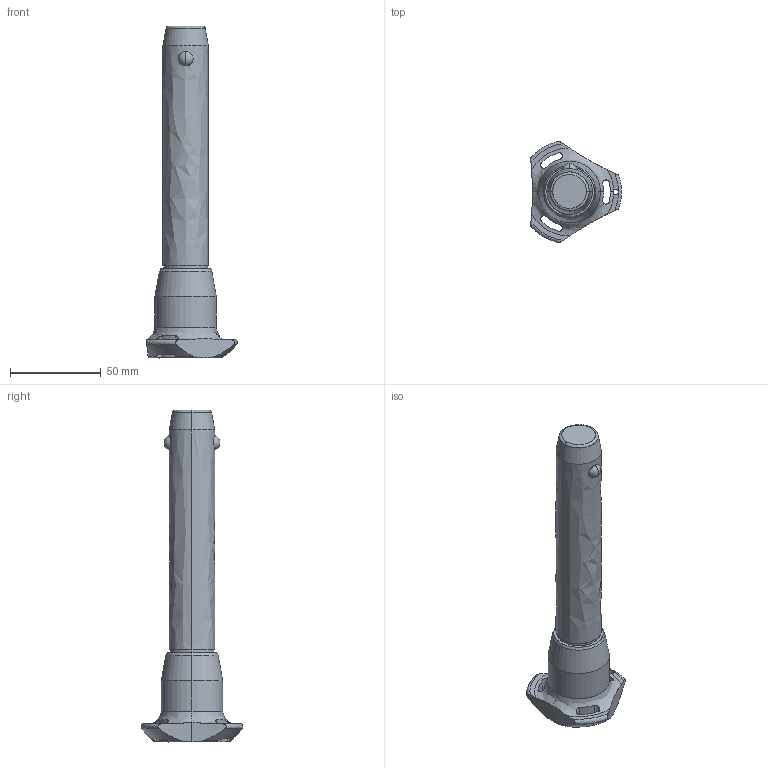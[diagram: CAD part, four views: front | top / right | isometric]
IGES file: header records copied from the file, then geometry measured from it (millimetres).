
Start section: SolidWorks IGES file using analytic representation for surfaces
Global section: file name: C:\Users\ianosborn\Desktop\QR1714_v2\QR1714_v2_20251112_IGES\QR1714.M25-110-S.igs; native system: SolidWorks 2019; preprocessor: SolidWorks 2019; author: IanOsborn; date: 251112.103418; units: millimetre
Bounding box: 50.03 x 56.02 x 182.7 mm (x, y, z)
Surface area: 20088.6 mm2 (no closed solid volume)
Topology: 0 solids, 0 shells, 65 faces, 1310 edges, 1306 vertices
Faces by surface type: revolution 50, bspline 15
